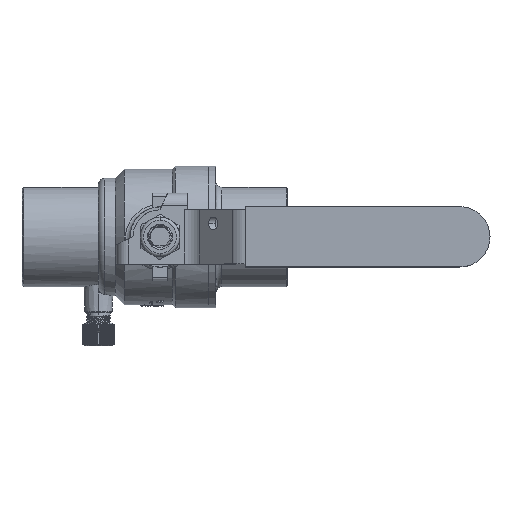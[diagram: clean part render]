
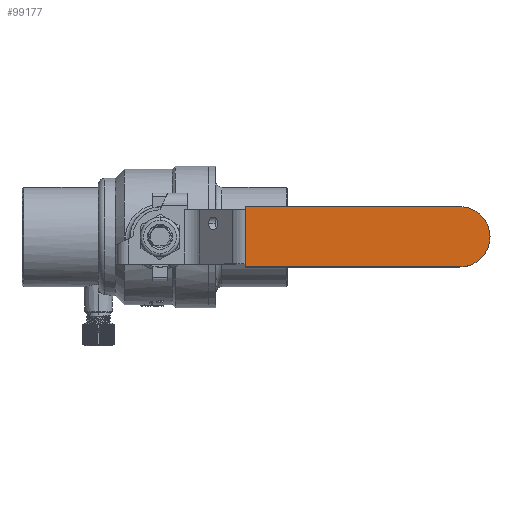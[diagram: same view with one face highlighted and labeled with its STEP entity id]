
A CAD part, top view. The second image highlights one B-rep face of the part: STEP entity #99177.
In plain terms, the highlighted planar face has unit normal (0, 0, 1).
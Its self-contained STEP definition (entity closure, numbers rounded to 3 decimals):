
#96614 = PLANE('',#96615);
#96615 = AXIS2_PLACEMENT_3D('',#96616,#96617,#96618);
#96616 = CARTESIAN_POINT('',(28.314,-10.,
    38.981));
#96617 = DIRECTION('',(1.,0.,0.));
#96618 = DIRECTION('',(0.,1.,0.));
#98947 = VERTEX_POINT('',#98948);
#98948 = CARTESIAN_POINT('',(28.314,10.,
    38.981));
#98964 = PLANE('',#98965);
#98965 = AXIS2_PLACEMENT_3D('',#98966,#98967,#98968);
#98966 = CARTESIAN_POINT('',(0.,10.,19.981));
#98967 = DIRECTION('',(0.,-1.,0.));
#98968 = DIRECTION('',(1.,0.,0.));
#99005 = VERTEX_POINT('',#99006);
#99006 = CARTESIAN_POINT('',(28.314,-10.,
    38.981));
#99020 = PLANE('',#99021);
#99021 = AXIS2_PLACEMENT_3D('',#99022,#99023,#99024);
#99022 = CARTESIAN_POINT('',(0.,-10.,19.981));
#99023 = DIRECTION('',(0.,-1.,0.));
#99024 = DIRECTION('',(1.,0.,0.));
#99032 = EDGE_CURVE('',#99005,#98947,#99033,.T.);
#99033 = SURFACE_CURVE('',#99034,(#99038,#99045),.PCURVE_S1.);
#99034 = LINE('',#99035,#99036);
#99035 = CARTESIAN_POINT('',(28.314,-10.,
    38.981));
#99036 = VECTOR('',#99037,1.);
#99037 = DIRECTION('',(0.,1.,0.));
#99038 = PCURVE('',#96614,#99039);
#99039 = DEFINITIONAL_REPRESENTATION('',(#99040),#99044);
#99040 = LINE('',#99041,#99042);
#99041 = CARTESIAN_POINT('',(0.,0.));
#99042 = VECTOR('',#99043,1.);
#99043 = DIRECTION('',(1.,0.));
#99044 = ( GEOMETRIC_REPRESENTATION_CONTEXT(2) 
PARAMETRIC_REPRESENTATION_CONTEXT() REPRESENTATION_CONTEXT('2D SPACE',''
  ) );
#99045 = PCURVE('',#99046,#99051);
#99046 = PLANE('',#99047);
#99047 = AXIS2_PLACEMENT_3D('',#99048,#99049,#99050);
#99048 = CARTESIAN_POINT('',(28.314,-10.,
    38.981));
#99049 = DIRECTION('',(0.,0.,-1.));
#99050 = DIRECTION('',(0.,1.,0.));
#99051 = DEFINITIONAL_REPRESENTATION('',(#99052),#99056);
#99052 = LINE('',#99053,#99054);
#99053 = CARTESIAN_POINT('',(0.,0.));
#99054 = VECTOR('',#99055,1.);
#99055 = DIRECTION('',(1.,0.));
#99056 = ( GEOMETRIC_REPRESENTATION_CONTEXT(2) 
PARAMETRIC_REPRESENTATION_CONTEXT() REPRESENTATION_CONTEXT('2D SPACE',''
  ) );
#99111 = CYLINDRICAL_SURFACE('',#99112,10.);
#99112 = AXIS2_PLACEMENT_3D('',#99113,#99114,#99115);
#99113 = CARTESIAN_POINT('',(99.5,0.,38.981));
#99114 = DIRECTION('',(0.,0.,1.));
#99115 = DIRECTION('',(0.,-1.,0.));
#99144 = CYLINDRICAL_SURFACE('',#99145,10.);
#99145 = AXIS2_PLACEMENT_3D('',#99146,#99147,#99148);
#99146 = CARTESIAN_POINT('',(99.5,0.,19.981));
#99147 = DIRECTION('',(0.,0.,-1.));
#99148 = DIRECTION('',(0.,1.,0.));
#99177 = ADVANCED_FACE('',(#99178),#99046,.F.);
#99178 = FACE_BOUND('',#99179,.T.);
#99179 = EDGE_LOOP('',(#99180,#99210,#99238,#99259,#99260));
#99180 = ORIENTED_EDGE('',*,*,#99181,.T.);
#99181 = EDGE_CURVE('',#99182,#99184,#99186,.T.);
#99182 = VERTEX_POINT('',#99183);
#99183 = CARTESIAN_POINT('',(99.5,-10.,38.981));
#99184 = VERTEX_POINT('',#99185);
#99185 = CARTESIAN_POINT('',(109.5,0.,38.981));
#99186 = SURFACE_CURVE('',#99187,(#99192,#99203),.PCURVE_S1.);
#99187 = CIRCLE('',#99188,10.);
#99188 = AXIS2_PLACEMENT_3D('',#99189,#99190,#99191);
#99189 = CARTESIAN_POINT('',(99.5,0.,38.981));
#99190 = DIRECTION('',(0.,0.,1.));
#99191 = DIRECTION('',(0.,1.,0.));
#99192 = PCURVE('',#99046,#99193);
#99193 = DEFINITIONAL_REPRESENTATION('',(#99194),#99202);
#99194 = ( BOUNDED_CURVE() B_SPLINE_CURVE(2,(#99195,#99196,#99197,#99198
    ,#99199,#99200,#99201),.UNSPECIFIED.,.T.,.F.) 
B_SPLINE_CURVE_WITH_KNOTS((1,2,2,2,2,1),(-2.094,0.,
    2.094,4.189,6.283,8.378),
.UNSPECIFIED.) CURVE() GEOMETRIC_REPRESENTATION_ITEM() 
RATIONAL_B_SPLINE_CURVE((1.,0.5,1.,0.5,1.,0.5,1.)) REPRESENTATION_ITEM(
  '') );
#99195 = CARTESIAN_POINT('',(20.,71.186));
#99196 = CARTESIAN_POINT('',(20.,53.866));
#99197 = CARTESIAN_POINT('',(5.,62.526));
#99198 = CARTESIAN_POINT('',(-10.,71.186));
#99199 = CARTESIAN_POINT('',(5.,79.847));
#99200 = CARTESIAN_POINT('',(20.,88.507));
#99201 = CARTESIAN_POINT('',(20.,71.186));
#99202 = ( GEOMETRIC_REPRESENTATION_CONTEXT(2) 
PARAMETRIC_REPRESENTATION_CONTEXT() REPRESENTATION_CONTEXT('2D SPACE',''
  ) );
#99203 = PCURVE('',#99144,#99204);
#99204 = DEFINITIONAL_REPRESENTATION('',(#99205),#99209);
#99205 = LINE('',#99206,#99207);
#99206 = CARTESIAN_POINT('',(6.283,-19.));
#99207 = VECTOR('',#99208,1.);
#99208 = DIRECTION('',(-1.,0.));
#99209 = ( GEOMETRIC_REPRESENTATION_CONTEXT(2) 
PARAMETRIC_REPRESENTATION_CONTEXT() REPRESENTATION_CONTEXT('2D SPACE',''
  ) );
#99210 = ORIENTED_EDGE('',*,*,#99211,.T.);
#99211 = EDGE_CURVE('',#99184,#99212,#99214,.T.);
#99212 = VERTEX_POINT('',#99213);
#99213 = CARTESIAN_POINT('',(99.5,10.,38.981));
#99214 = SURFACE_CURVE('',#99215,(#99220,#99231),.PCURVE_S1.);
#99215 = CIRCLE('',#99216,10.);
#99216 = AXIS2_PLACEMENT_3D('',#99217,#99218,#99219);
#99217 = CARTESIAN_POINT('',(99.5,0.,38.981));
#99218 = DIRECTION('',(0.,0.,1.));
#99219 = DIRECTION('',(0.,1.,0.));
#99220 = PCURVE('',#99046,#99221);
#99221 = DEFINITIONAL_REPRESENTATION('',(#99222),#99230);
#99222 = ( BOUNDED_CURVE() B_SPLINE_CURVE(2,(#99223,#99224,#99225,#99226
    ,#99227,#99228,#99229),.UNSPECIFIED.,.T.,.F.) 
B_SPLINE_CURVE_WITH_KNOTS((1,2,2,2,2,1),(-2.094,0.,
    2.094,4.189,6.283,8.378),
.UNSPECIFIED.) CURVE() GEOMETRIC_REPRESENTATION_ITEM() 
RATIONAL_B_SPLINE_CURVE((1.,0.5,1.,0.5,1.,0.5,1.)) REPRESENTATION_ITEM(
  '') );
#99223 = CARTESIAN_POINT('',(20.,71.186));
#99224 = CARTESIAN_POINT('',(20.,53.866));
#99225 = CARTESIAN_POINT('',(5.,62.526));
#99226 = CARTESIAN_POINT('',(-10.,71.186));
#99227 = CARTESIAN_POINT('',(5.,79.847));
#99228 = CARTESIAN_POINT('',(20.,88.507));
#99229 = CARTESIAN_POINT('',(20.,71.186));
#99230 = ( GEOMETRIC_REPRESENTATION_CONTEXT(2) 
PARAMETRIC_REPRESENTATION_CONTEXT() REPRESENTATION_CONTEXT('2D SPACE',''
  ) );
#99231 = PCURVE('',#99111,#99232);
#99232 = DEFINITIONAL_REPRESENTATION('',(#99233),#99237);
#99233 = LINE('',#99234,#99235);
#99234 = CARTESIAN_POINT('',(-3.142,0.));
#99235 = VECTOR('',#99236,1.);
#99236 = DIRECTION('',(1.,0.));
#99237 = ( GEOMETRIC_REPRESENTATION_CONTEXT(2) 
PARAMETRIC_REPRESENTATION_CONTEXT() REPRESENTATION_CONTEXT('2D SPACE',''
  ) );
#99238 = ORIENTED_EDGE('',*,*,#99239,.T.);
#99239 = EDGE_CURVE('',#99212,#98947,#99240,.T.);
#99240 = SURFACE_CURVE('',#99241,(#99245,#99252),.PCURVE_S1.);
#99241 = LINE('',#99242,#99243);
#99242 = CARTESIAN_POINT('',(28.314,10.,
    38.981));
#99243 = VECTOR('',#99244,1.);
#99244 = DIRECTION('',(-1.,0.,0.));
#99245 = PCURVE('',#99046,#99246);
#99246 = DEFINITIONAL_REPRESENTATION('',(#99247),#99251);
#99247 = LINE('',#99248,#99249);
#99248 = CARTESIAN_POINT('',(20.,0.));
#99249 = VECTOR('',#99250,1.);
#99250 = DIRECTION('',(0.,-1.));
#99251 = ( GEOMETRIC_REPRESENTATION_CONTEXT(2) 
PARAMETRIC_REPRESENTATION_CONTEXT() REPRESENTATION_CONTEXT('2D SPACE',''
  ) );
#99252 = PCURVE('',#98964,#99253);
#99253 = DEFINITIONAL_REPRESENTATION('',(#99254),#99258);
#99254 = LINE('',#99255,#99256);
#99255 = CARTESIAN_POINT('',(28.314,19.));
#99256 = VECTOR('',#99257,1.);
#99257 = DIRECTION('',(-1.,0.));
#99258 = ( GEOMETRIC_REPRESENTATION_CONTEXT(2) 
PARAMETRIC_REPRESENTATION_CONTEXT() REPRESENTATION_CONTEXT('2D SPACE',''
  ) );
#99259 = ORIENTED_EDGE('',*,*,#99032,.F.);
#99260 = ORIENTED_EDGE('',*,*,#99261,.F.);
#99261 = EDGE_CURVE('',#99182,#99005,#99262,.T.);
#99262 = SURFACE_CURVE('',#99263,(#99267,#99274),.PCURVE_S1.);
#99263 = LINE('',#99264,#99265);
#99264 = CARTESIAN_POINT('',(28.314,-10.,
    38.981));
#99265 = VECTOR('',#99266,1.);
#99266 = DIRECTION('',(-1.,0.,0.));
#99267 = PCURVE('',#99046,#99268);
#99268 = DEFINITIONAL_REPRESENTATION('',(#99269),#99273);
#99269 = LINE('',#99270,#99271);
#99270 = CARTESIAN_POINT('',(0.,0.));
#99271 = VECTOR('',#99272,1.);
#99272 = DIRECTION('',(0.,-1.));
#99273 = ( GEOMETRIC_REPRESENTATION_CONTEXT(2) 
PARAMETRIC_REPRESENTATION_CONTEXT() REPRESENTATION_CONTEXT('2D SPACE',''
  ) );
#99274 = PCURVE('',#99020,#99275);
#99275 = DEFINITIONAL_REPRESENTATION('',(#99276),#99280);
#99276 = LINE('',#99277,#99278);
#99277 = CARTESIAN_POINT('',(28.314,19.));
#99278 = VECTOR('',#99279,1.);
#99279 = DIRECTION('',(-1.,0.));
#99280 = ( GEOMETRIC_REPRESENTATION_CONTEXT(2) 
PARAMETRIC_REPRESENTATION_CONTEXT() REPRESENTATION_CONTEXT('2D SPACE',''
  ) );
